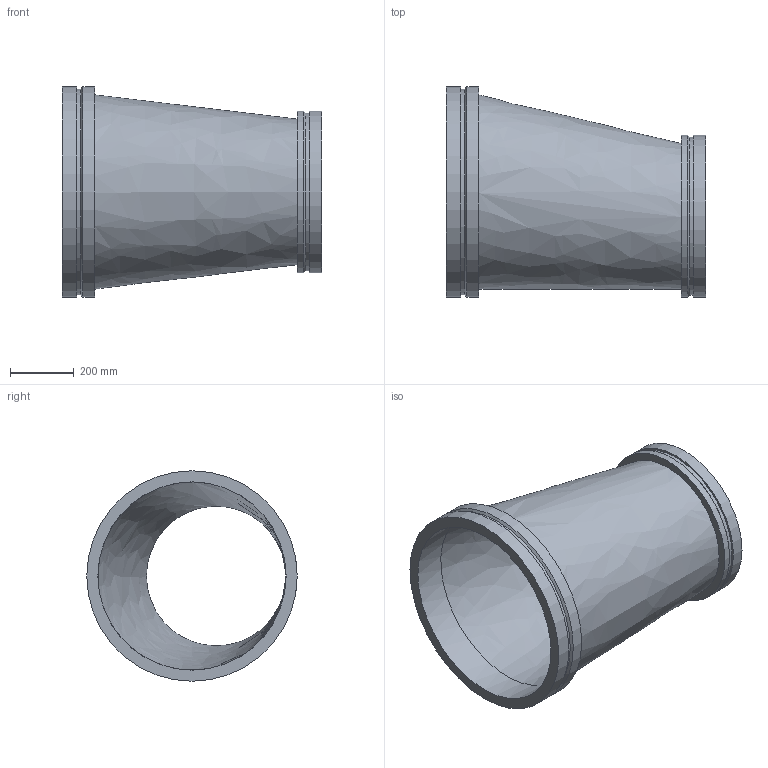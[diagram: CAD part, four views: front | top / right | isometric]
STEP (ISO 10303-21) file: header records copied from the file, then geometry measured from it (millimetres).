
FILE_DESCRIPTION(/* description */ ('VIC REDUCER ECCENTRIC No W51-VR','CAx-IF Rec.Pracs.---Representation and Presentation of Product Manufacturing Information (PMI)---4.0---2014-10-13'),/* implementation_level */ '2;1');
FILE_NAME(/* name */ 'C:\Users\kkamble\AppData\Roaming\Autodesk\ApplicationPlugins\Back Up\Victaulic_Vic-Ring_Reducer Eccentric_No W51 VR (AGR)\Victaulic_Vic-Ring_Reducer Eccentric_No W51 VR (AGR)_24.0x18.0 (600x450).stp',/* time_stamp */ '2020-09-10T11:49:20+05:00',/* author */ ('CONSTRUCTION PIPING SERVICES'),/* organization */ ('Victaulic'),/* preprocessor_version */ 'ST-DEVELOPER v17.2',/* originating_system */ 'Autodesk Inventor 2019',/* authorisation */ '');
FILE_SCHEMA (('AP242_MANAGED_MODEL_BASED_3D_ENGINEERING_MIM_LF { 1 0 10303 442 1 1 4 }'));
Length unit declared in the file: inch
Products named in the file (1): W51 VR-24.0x18.0
Bounding box: 812.8 x 660.4 x 660.4 mm (x, y, z)
Volume: 20499740 mm3; surface area: 2983178.1 mm2
Topology: 1 solids, 1 shells, 18 faces, 49 edges, 37 vertices
Faces by surface type: cylinder 8, plane 6, cone 2, bspline 2
Full cylindrical faces by diameter (mm): 438.15 x1, 495.3 x1, 508 x2, 590.55 x1, 645.922 x1, 660.4 x2
Entity records: 792 total; most frequent: CARTESIAN_POINT 158, DIRECTION 144, ORIENTED_EDGE 98, AXIS2_PLACEMENT_3D 67, EDGE_CURVE 49, CIRCLE 37, VERTEX_POINT 37, EDGE_LOOP 24
